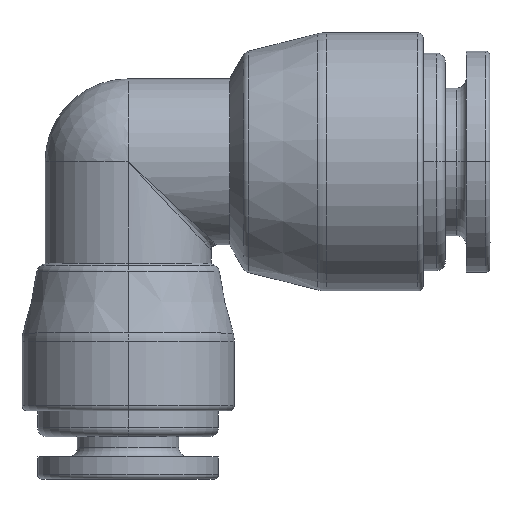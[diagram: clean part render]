
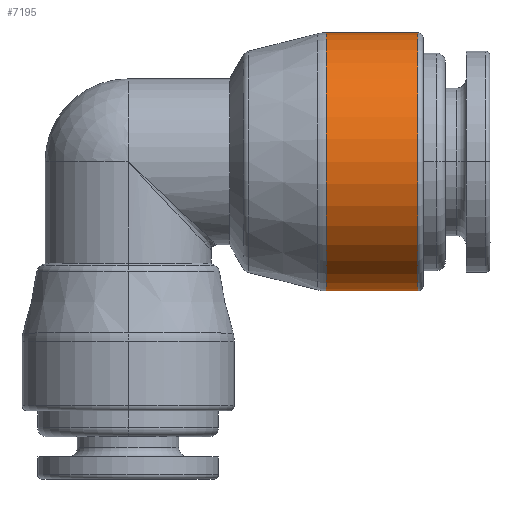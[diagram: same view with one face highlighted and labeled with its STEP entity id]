
A CAD part, top view. The second image highlights one B-rep face of the part: STEP entity #7195.
In plain terms, the highlighted cylindrical face has radius 7 mm (diameter 14 mm), a partial arc.
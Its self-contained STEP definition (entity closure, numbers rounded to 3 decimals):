
#81 = DIRECTION ( 'NONE',  ( 1., 0., 0. ) ) ;
#721 = CARTESIAN_POINT ( 'NONE',  ( 16., -7., 0. ) ) ;
#1006 = LINE ( 'NONE', #6536, #5008 ) ;
#1718 = DIRECTION ( 'NONE',  ( 1., 0., 0. ) ) ;
#1737 = ORIENTED_EDGE ( 'NONE', *, *, #3559, .T. ) ;
#2180 = DIRECTION ( 'NONE',  ( 0., 1., 0. ) ) ;
#2517 = VECTOR ( 'NONE', #3523, 1000. ) ;
#2856 = FACE_OUTER_BOUND ( 'NONE', #3017, .T. ) ;
#3017 = EDGE_LOOP ( 'NONE', ( #1737, #8991, #6434, #6880 ) ) ;
#3185 = VERTEX_POINT ( 'NONE', #8476 ) ;
#3523 = DIRECTION ( 'NONE',  ( 1., 0., 0. ) ) ;
#3559 = EDGE_CURVE ( 'NONE', #6401, #3185, #6002, .T. ) ;
#3616 = CARTESIAN_POINT ( 'NONE',  ( 15.7, 0., 0. ) ) ;
#3651 = CIRCLE ( 'NONE', #8790, 7. ) ;
#3724 = CARTESIAN_POINT ( 'NONE',  ( 16., 0., 0. ) ) ;
#3768 = DIRECTION ( 'NONE',  ( 1., 0., 0. ) ) ;
#3871 = CARTESIAN_POINT ( 'NONE',  ( 15.7, 7., 0. ) ) ;
#4212 = EDGE_CURVE ( 'NONE', #3185, #6908, #6279, .T. ) ;
#5008 = VECTOR ( 'NONE', #1718, 1000. ) ;
#5549 = CARTESIAN_POINT ( 'NONE',  ( 10.748, 0., 0. ) ) ;
#5666 = CYLINDRICAL_SURFACE ( 'NONE', #6575, 7. ) ;
#5981 = DIRECTION ( 'NONE',  ( 0., 1., 0. ) ) ;
#6002 = CIRCLE ( 'NONE', #7180, 7. ) ;
#6279 = LINE ( 'NONE', #721, #2517 ) ;
#6401 = VERTEX_POINT ( 'NONE', #7799 ) ;
#6434 = ORIENTED_EDGE ( 'NONE', *, *, #8312, .F. ) ;
#6536 = CARTESIAN_POINT ( 'NONE',  ( 16., 7., 0. ) ) ;
#6575 = AXIS2_PLACEMENT_3D ( 'NONE', #3724, #3768, #5981 ) ;
#6880 = ORIENTED_EDGE ( 'NONE', *, *, #9050, .F. ) ;
#6908 = VERTEX_POINT ( 'NONE', #7742 ) ;
#7180 = AXIS2_PLACEMENT_3D ( 'NONE', #5549, #8253, #9084 ) ;
#7195 = ADVANCED_FACE ( 'NONE', ( #2856 ), #5666, .T. ) ;
#7609 = VERTEX_POINT ( 'NONE', #3871 ) ;
#7742 = CARTESIAN_POINT ( 'NONE',  ( 15.7, -7., 0. ) ) ;
#7799 = CARTESIAN_POINT ( 'NONE',  ( 10.748, 7., 0. ) ) ;
#8253 = DIRECTION ( 'NONE',  ( 1., 0., 0. ) ) ;
#8312 = EDGE_CURVE ( 'NONE', #7609, #6908, #3651, .T. ) ;
#8476 = CARTESIAN_POINT ( 'NONE',  ( 10.748, -7., 0. ) ) ;
#8790 = AXIS2_PLACEMENT_3D ( 'NONE', #3616, #81, #2180 ) ;
#8991 = ORIENTED_EDGE ( 'NONE', *, *, #4212, .T. ) ;
#9050 = EDGE_CURVE ( 'NONE', #6401, #7609, #1006, .T. ) ;
#9084 = DIRECTION ( 'NONE',  ( 0., 1., 0. ) ) ;
